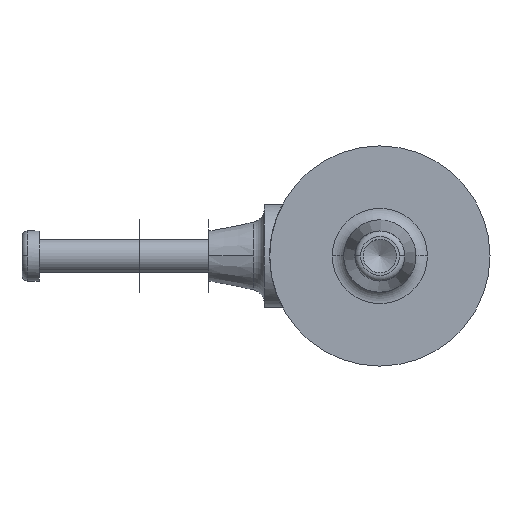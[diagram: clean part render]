
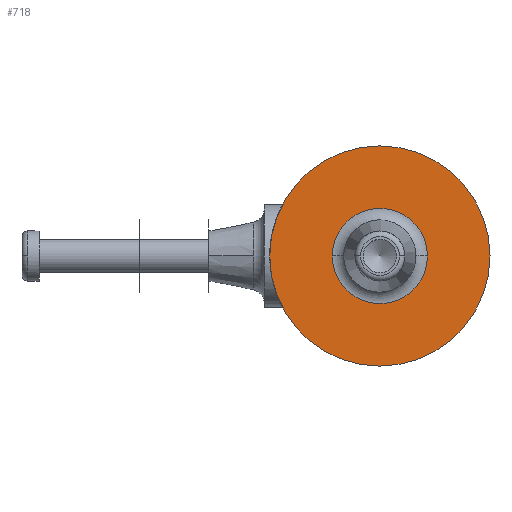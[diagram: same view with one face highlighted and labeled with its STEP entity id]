
A CAD part, left-side view. The second image highlights one B-rep face of the part: STEP entity #718.
In plain terms, the highlighted planar face has unit normal (-1, 0, 0).
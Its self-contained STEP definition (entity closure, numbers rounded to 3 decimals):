
#20=FACE_BOUND('',#173,.T.);
#31=PLANE('',#845);
#128=FACE_OUTER_BOUND('',#172,.T.);
#172=EDGE_LOOP('',(#590,#591));
#173=EDGE_LOOP('',(#592,#593));
#220=CIRCLE('',#781,1.71);
#265=CIRCLE('',#841,3.96);
#266=CIRCLE('',#842,3.96);
#268=CIRCLE('',#846,1.71);
#305=VERTEX_POINT('',#1203);
#306=VERTEX_POINT('',#1205);
#344=VERTEX_POINT('',#1308);
#353=VERTEX_POINT('',#1362);
#384=EDGE_CURVE('',#306,#305,#220,.T.);
#447=EDGE_CURVE('',#344,#353,#265,.T.);
#448=EDGE_CURVE('',#353,#344,#266,.T.);
#450=EDGE_CURVE('',#305,#306,#268,.T.);
#590=ORIENTED_EDGE('',*,*,#447,.T.);
#591=ORIENTED_EDGE('',*,*,#448,.T.);
#592=ORIENTED_EDGE('',*,*,#384,.T.);
#593=ORIENTED_EDGE('',*,*,#450,.T.);
#718=ADVANCED_FACE('',(#128,#20),#31,.T.);
#781=AXIS2_PLACEMENT_3D('',#1206,#930,#931);
#841=AXIS2_PLACEMENT_3D('',#1364,#1067,#1068);
#842=AXIS2_PLACEMENT_3D('',#1365,#1069,#1070);
#845=AXIS2_PLACEMENT_3D('',#1368,#1075,#1076);
#846=AXIS2_PLACEMENT_3D('',#1369,#1077,#1078);
#930=DIRECTION('center_axis',(1.,0.,0.));
#931=DIRECTION('ref_axis',(0.,-1.,0.));
#1067=DIRECTION('center_axis',(-1.,0.,0.));
#1068=DIRECTION('ref_axis',(0.,-1.,0.));
#1069=DIRECTION('center_axis',(-1.,0.,0.));
#1070=DIRECTION('ref_axis',(0.,-1.,0.));
#1075=DIRECTION('center_axis',(-1.,0.,0.));
#1076=DIRECTION('ref_axis',(0.,0.,1.));
#1077=DIRECTION('center_axis',(1.,0.,0.));
#1078=DIRECTION('ref_axis',(0.,1.,0.));
#1203=CARTESIAN_POINT('',(-6.375,1.71,0.));
#1205=CARTESIAN_POINT('',(-6.375,-1.71,0.));
#1206=CARTESIAN_POINT('Origin',(-6.375,0.,0.));
#1308=CARTESIAN_POINT('',(-6.375,3.96,0.));
#1362=CARTESIAN_POINT('',(-6.375,0.,-3.96));
#1364=CARTESIAN_POINT('Origin',(-6.375,0.,0.));
#1365=CARTESIAN_POINT('Origin',(-6.375,0.,0.));
#1368=CARTESIAN_POINT('Origin',(-6.375,0.,-4.008));
#1369=CARTESIAN_POINT('Origin',(-6.375,0.,0.));
